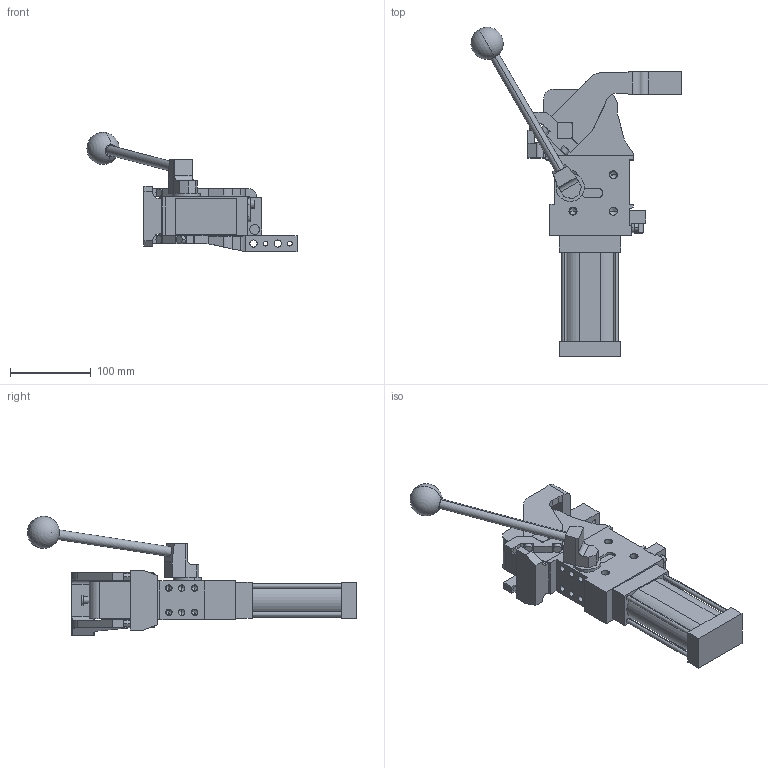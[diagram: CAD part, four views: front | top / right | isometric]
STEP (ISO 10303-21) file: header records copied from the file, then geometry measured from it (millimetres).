
FILE_DESCRIPTION (( 'STEP AP214' ), '1' );
FILE_NAME ('cplm50latv3dsi1g_26.STEP', '2023-01-26T14:26:09', ( '' ), ( '' ), 'SwSTEP 2.0', 'SolidWorks 2022', '' );
FILE_SCHEMA (( 'AUTOMOTIVE_DESIGN' ));
Length unit declared in the file: millimetre
Products named in the file (5): cplm50latv3dsi1g_26; meccanica_cplm_50_tassello_esterno; leva_v3ds_cpl50t; blocchetto_VEP_0; comando_manuale_cplm_50
Assembly tree (4 placements, depth 2):
  cplm50latv3dsi1g_26
    meccanica_cplm_50_tassello_esterno
    blocchetto_VEP_0
    leva_v3ds_cpl50t
    comando_manuale_cplm_50
Bounding box: 260.57 x 408.56 x 148 mm (x, y, z)
Volume: 1523899.2 mm3; surface area: 194398.9 mm2
Topology: 4 solids, 4 shells, 470 faces, 1219 edges, 765 vertices
Faces by surface type: plane 245, cylinder 173, cone 50, sphere 2
Entity records: 15621 total; most frequent: CARTESIAN_POINT 2510, DIRECTION 2469, ORIENTED_EDGE 2336, EDGE_CURVE 1168, AXIS2_PLACEMENT_3D 839, VECTOR 791, LINE 791, VERTEX_POINT 762
